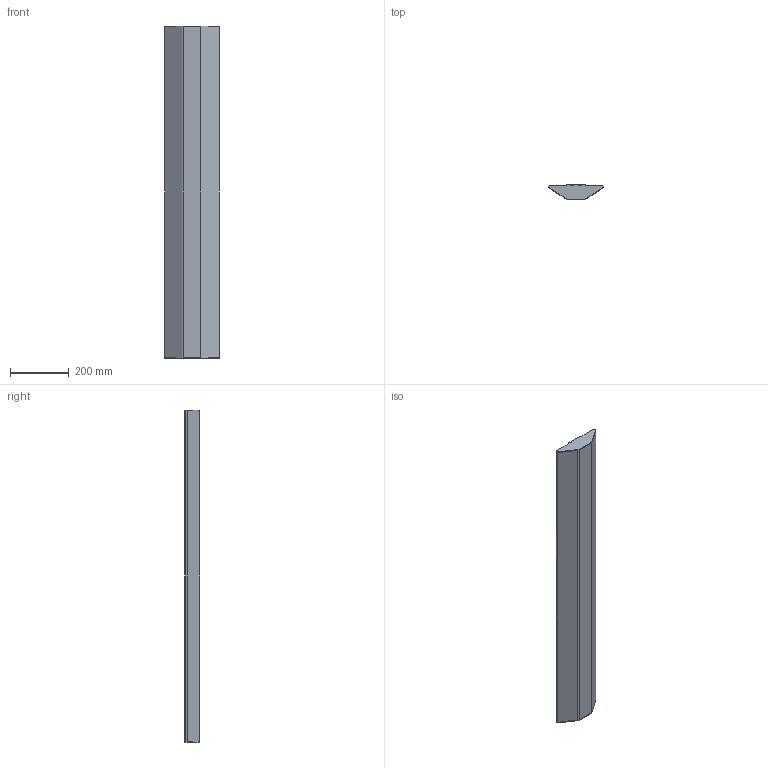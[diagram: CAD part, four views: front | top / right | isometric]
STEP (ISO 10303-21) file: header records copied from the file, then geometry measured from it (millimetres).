
FILE_DESCRIPTION (( 'STEP AP214' ), '1' );
FILE_NAME ('mLight_Prime LED_1124mm.STEP', '2015-06-12T06:53:00', ( '' ), ( '' ), 'SwSTEP 2.0', 'SolidWorks 2014', '' );
FILE_SCHEMA (( 'AUTOMOTIVE_DESIGN' ));
Length unit declared in the file: millimetre
Products named in the file (1): mLight_Prime LED_1124mm
Bounding box: 186.48 x 51.59 x 1130 mm (x, y, z)
Volume: 7289748.6 mm3; surface area: 561044.4 mm2
Topology: 3 solids, 3 shells, 129 faces, 369 edges, 246 vertices
Faces by surface type: plane 66, cylinder 63
Entity records: 5720 total; most frequent: DIRECTION 755, CARTESIAN_POINT 745, ORIENTED_EDGE 738, EDGE_CURVE 369, AXIS2_PLACEMENT_3D 256, VERTEX_POINT 246, VECTOR 243, LINE 243
